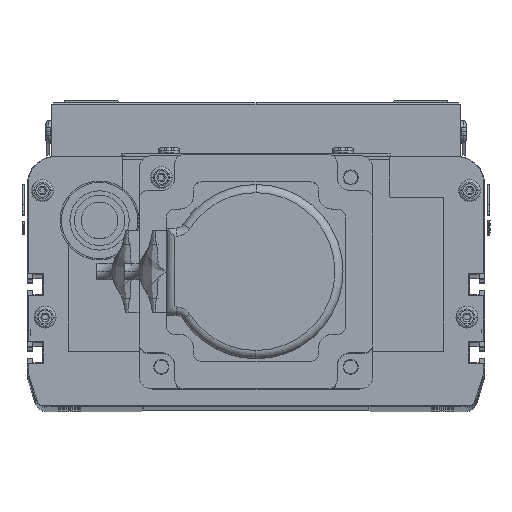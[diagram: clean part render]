
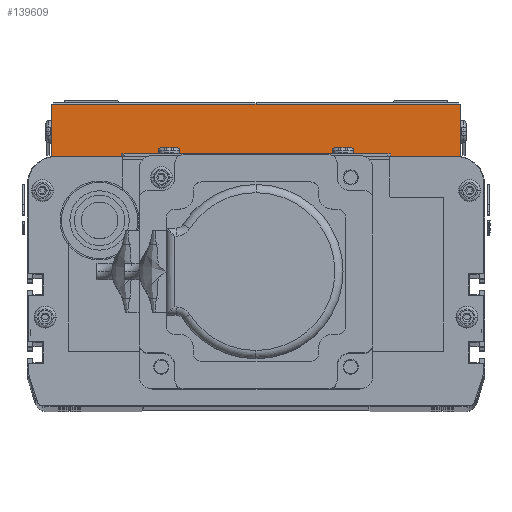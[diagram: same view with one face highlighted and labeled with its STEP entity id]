
A CAD part, top view. The second image highlights one B-rep face of the part: STEP entity #139609.
In plain terms, the highlighted planar face has unit normal (0, 0, 1) as drawn and (1, 0, 0) by its records, which use the part's own axes.
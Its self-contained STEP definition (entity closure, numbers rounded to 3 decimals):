
#85623 = CARTESIAN_POINT ( 'NONE',  ( 220., 19.5, -150. ) ) ;
#86056 = DIRECTION ( 'NONE',  ( 0., -1., 0. ) ) ;
#86057 = VECTOR ( 'NONE', #86056, 1000. ) ;
#86077 = DIRECTION ( 'NONE',  ( 0., -1., 0. ) ) ;
#86080 = VECTOR ( 'NONE', #86077, 1000. ) ;
#86083 = CARTESIAN_POINT ( 'NONE',  ( 220., 20., 0. ) ) ;
#86084 = LINE ( 'NONE', #86083, #86080 ) ;
#86307 = DIRECTION ( 'NONE',  ( 0., 0., -1. ) ) ;
#86308 = VECTOR ( 'NONE', #86307, 1000. ) ;
#86310 = CARTESIAN_POINT ( 'NONE',  ( 220., 0., 0. ) ) ;
#86329 = LINE ( 'NONE', #86310, #86308 ) ;
#86414 = CARTESIAN_POINT ( 'NONE',  ( 220., 20., -150. ) ) ;
#86415 = LINE ( 'NONE', #86414, #86057 ) ;
#86523 = CARTESIAN_POINT ( 'NONE',  ( 220., 19.5, 0. ) ) ;
#86542 = CARTESIAN_POINT ( 'NONE',  ( 220., 19.5, 0. ) ) ;
#86543 = LINE ( 'NONE', #86542, #86826 ) ;
#86739 = CARTESIAN_POINT ( 'NONE',  ( 220., 0., -150. ) ) ;
#86824 = DIRECTION ( 'NONE',  ( 0., 0., 1. ) ) ;
#86826 = VECTOR ( 'NONE', #86824, 1000. ) ;
#87851 = PLANE ( 'NONE',  #88312 ) ;
#88266 = DIRECTION ( 'NONE',  ( 0., 0., 1. ) ) ;
#88268 = VECTOR ( 'NONE', #88266, 1000. ) ;
#88296 = CARTESIAN_POINT ( 'NONE',  ( 220., 19.5, 0. ) ) ;
#88299 = LINE ( 'NONE', #88296, #88268 ) ;
#88312 = AXIS2_PLACEMENT_3D ( 'NONE', #88435, #88459, #88452 ) ;
#88435 = CARTESIAN_POINT ( 'NONE',  ( 220., 20., 0. ) ) ;
#88452 = DIRECTION ( 'NONE',  ( 0., 0., 1. ) ) ;
#88459 = DIRECTION ( 'NONE',  ( -1., 0., 0. ) ) ;
#88461 = CARTESIAN_POINT ( 'NONE',  ( 220., 19.5, -75. ) ) ;
#88462 = FACE_OUTER_BOUND ( 'NONE', #139221, .T. ) ;
#88632 = CARTESIAN_POINT ( 'NONE',  ( 220., 0., 0. ) ) ;
#139213 = EDGE_CURVE ( 'NONE', #139222, #139625, #86084, .T. ) ;
#139221 = EDGE_LOOP ( 'NONE', ( #139454, #139614, #139616, #139619, #139617 ) ) ;
#139222 = VERTEX_POINT ( 'NONE', #86523 ) ;
#139224 = EDGE_CURVE ( 'NONE', #139492, #139612, #86543, .T. ) ;
#139253 = VERTEX_POINT ( 'NONE', #86739 ) ;
#139254 = EDGE_CURVE ( 'NONE', #139492, #139253, #86415, .T. ) ;
#139317 = EDGE_CURVE ( 'NONE', #139625, #139253, #86329, .T. ) ;
#139454 = ORIENTED_EDGE ( 'NONE', *, *, #139254, .F. ) ;
#139492 = VERTEX_POINT ( 'NONE', #85623 ) ;
#139609 = ADVANCED_FACE ( 'NONE', ( #88462 ), #87851, .F. ) ;
#139612 = VERTEX_POINT ( 'NONE', #88461 ) ;
#139614 = ORIENTED_EDGE ( 'NONE', *, *, #139224, .T. ) ;
#139615 = EDGE_CURVE ( 'NONE', #139612, #139222, #88299, .T. ) ;
#139616 = ORIENTED_EDGE ( 'NONE', *, *, #139615, .T. ) ;
#139617 = ORIENTED_EDGE ( 'NONE', *, *, #139317, .T. ) ;
#139619 = ORIENTED_EDGE ( 'NONE', *, *, #139213, .T. ) ;
#139625 = VERTEX_POINT ( 'NONE', #88632 ) ;
